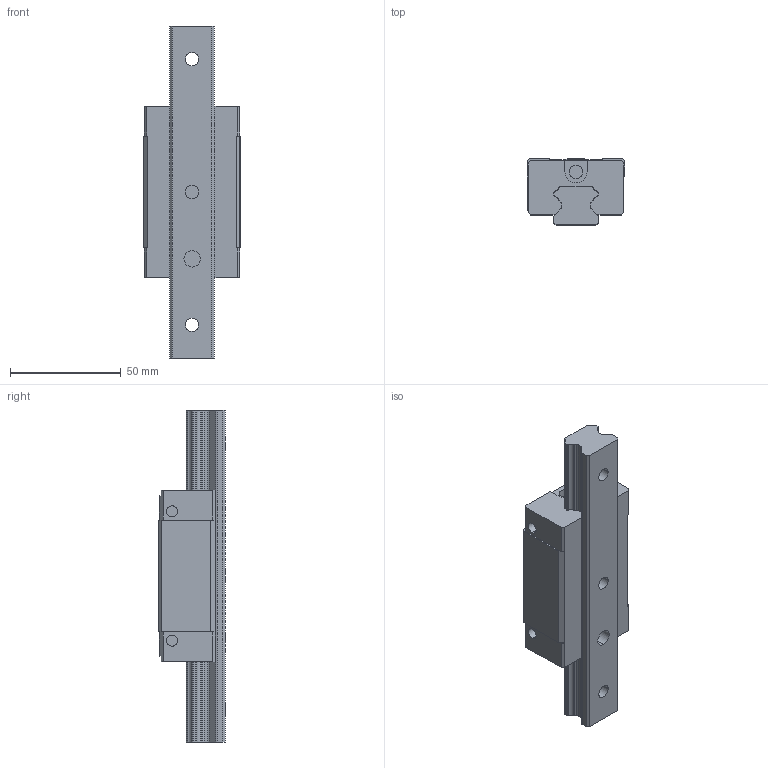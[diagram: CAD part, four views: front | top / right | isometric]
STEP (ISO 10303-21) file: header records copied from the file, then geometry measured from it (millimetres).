
FILE_DESCRIPTION((''),'2;1');
FILE_NAME('HGH20CA_ASM','2008-07-11T',('immo'),(''),'PRO/ENGINEER BY PARAMETRIC TECHNOLOGY CORPORATION, 2004360','PRO/ENGINEER BY PARAMETRIC TECHNOLOGY CORPORATION, 2004360','');
FILE_SCHEMA(('CONFIG_CONTROL_DESIGN'));
Length unit declared in the file: millimetre
Products named in the file (4): HGH20_3_AF0; HGR20_3_AF0; HGH_20_ASM_7_AF0_ASM; HGH20CA_ASM
Assembly tree (3 placements, depth 3):
  HGH20CA_ASM
    HGH_20_ASM_7_AF0_ASM
      HGH20_3_AF0
      HGR20_3_AF0
Bounding box: 44 x 30 x 150 mm (x, y, z)
Volume: 107300.5 mm3; surface area: 29354.7 mm2
Topology: 2 solids, 2 shells, 215 faces, 570 edges, 376 vertices
Faces by surface type: plane 123, cylinder 92
Entity records: 6842 total; most frequent: DIRECTION 1210, CARTESIAN_POINT 1170, ORIENTED_EDGE 1140, EDGE_CURVE 570, AXIS2_PLACEMENT_3D 416, VECTOR 378, LINE 378, VERTEX_POINT 376
